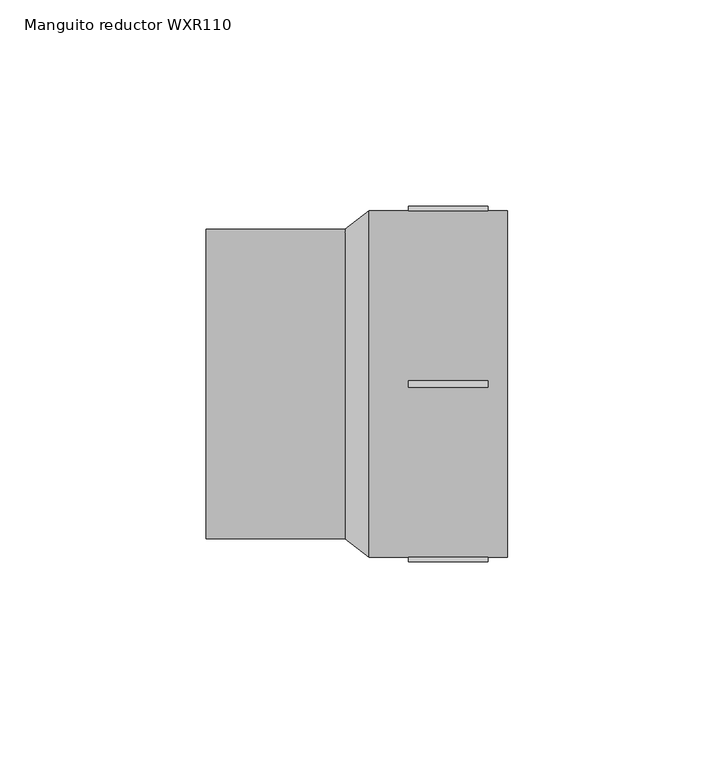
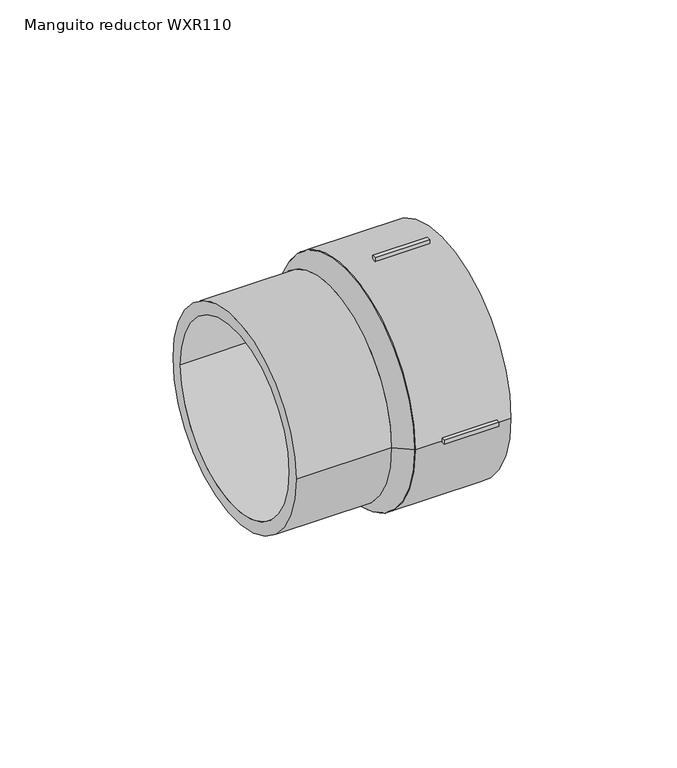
"""IFC4 building model written with IfcOpenShell, lengths in millimetres: pipe fitting geometry, EGB_VASEN_ PPR_Manguito reductor WXR110 : Manguito reductor WXR110."""

from ifc_helpers import new_model, si_unit, point, frame, origin, origin_2d, place, context, project, spatial, polyline, circle_curve, trimmed, segment, composite_curve, outline, extrude, source, transform, mapped, element, save
from ifc_brep_helpers import plane_surface, revolved_surface, advanced_brep


def manguito_reductor_wxr110_f1d7fb8c(model_context):
    return source(origin(), model_context, "Body", "SolidModel", [
        extrude(outline(polyline([(12.5, -0.75), (12.5, 0.75), (31.7, 0.75), (31.7, -0.75), (12.5, -0.75)])), frame((0.0, 0.0, 41.0), z_axis=(0.0, 0.0, 1.0), x_axis=(1.0, 0.0, 0.0)), (0.0, 0.0, 1.0), 2.0),
        extrude(outline(polyline([(12.5, -0.75), (12.5, 0.75), (31.7, 0.75), (31.7, -0.75), (12.5, -0.75)])), frame((0.0, 0.0, -43.0), z_axis=(0.0, 0.0, 1.0), x_axis=(1.0, 0.0, 0.0)), (0.0, 0.0, 1.0), 2.0),
        extrude(outline(polyline([(12.5, 41.0), (12.5, 43.0), (31.7, 43.0), (31.7, 41.0), (12.5, 41.0)])), frame((0.0, 0.0, -0.75), z_axis=(0.0, 0.0, 1.0), x_axis=(1.0, 0.0, 0.0)), (0.0, 0.0, 1.0), 1.5),
        extrude(outline(polyline([(12.5, -43.0), (12.5, -41.0), (31.7, -41.0), (31.7, -43.0), (12.5, -43.0)])), frame((0.0, 0.0, -0.75), z_axis=(0.0, 0.0, 1.0), x_axis=(1.0, 0.0, 0.0)), (0.0, 0.0, 1.0), 1.5),
        extrude(outline(composite_curve([segment(trimmed(circle_curve(origin_2d(), 42.0), [point((-42.0, 0.0))], [point((42.0, 0.0))], False, "CARTESIAN"), True, "CONTINUOUS"), segment(trimmed(circle_curve(origin_2d(), 42.0), [point((42.0, 0.0))], [point((-42.0, 0.0))], False, "CARTESIAN"), True, "CONTINUOUS")], self_intersect=False), holes=[composite_curve([segment(trimmed(circle_curve(origin_2d(), 31.5), [point((-31.5, 0.0))], [point((31.5, 0.0))], True, "CARTESIAN"), True, "CONTINUOUS"), segment(trimmed(circle_curve(origin_2d(), 31.5), [point((31.5, 0.0))], [point((-31.5, 0.0))], True, "CARTESIAN"), True, "CONTINUOUS")], self_intersect=False)]), frame((2.92, 0.0, 0.0), z_axis=(1.0, 0.0, 0.0), x_axis=(0.0, 1.0, 0.0)), (0.0, 0.0, 1.0), 33.58),
        extrude(outline(composite_curve([segment(trimmed(circle_curve(origin_2d(), 37.5), [point((-37.5, 0.0))], [point((37.5, 0.0))], False, "CARTESIAN"), True, "CONTINUOUS"), segment(trimmed(circle_curve(origin_2d(), 37.5), [point((37.5, 0.0))], [point((-37.5, 0.0))], False, "CARTESIAN"), True, "CONTINUOUS")], self_intersect=False), holes=[composite_curve([segment(trimmed(circle_curve(origin_2d(), 33.0), [point((-33.0, 0.0))], [point((33.0, 0.0))], True, "CARTESIAN"), True, "CONTINUOUS"), segment(trimmed(circle_curve(origin_2d(), 33.0), [point((33.0, 0.0))], [point((-33.0, 0.0))], True, "CARTESIAN"), True, "CONTINUOUS")], self_intersect=False)]), frame((-36.5, 0.0, 0.0), z_axis=(1.0, 0.0, 0.0), x_axis=(0.0, 1.0, 0.0)), (0.0, 0.0, 1.0), 33.58),
        advanced_brep(
        [(2.92, -42.0, 0.0), (2.92, 42.0, 0.0), (-2.92, -37.5, 0.0), (-2.92, 37.5, 0.0)],
        [
            (0, 1, circle_curve(frame((2.92, 0.0, 0.0), z_axis=(1.0, 0.0, 0.0), x_axis=(0.0, -1.0, 0.0)), 42.0)),
            (1, 0, circle_curve(frame((2.92, 0.0, 0.0), z_axis=(1.0, 0.0, 0.0), x_axis=(0.0, 1.0, 0.0)), 42.0)),
            (2, 3, circle_curve(frame((-2.92, 0.0, 0.0), z_axis=(-1.0, 0.0, 0.0), x_axis=(0.0, 1.0, 0.0)), 37.5)),
            (3, 2, circle_curve(frame((-2.92, 0.0, 0.0), z_axis=(-1.0, 0.0, 0.0), x_axis=(0.0, -1.0, 0.0)), 37.5)),
            (3, 1),
            (0, 2),
        ],
        [
            plane_surface(frame((2.92, 0.0, 0.0), z_axis=(1.0, 0.0, 0.0), x_axis=(0.0, 0.0, -1.0))),
            plane_surface(frame((-2.92, 0.0, 0.0), z_axis=(-1.0, 0.0, 0.0), x_axis=(0.0, 0.0, -1.0))),
            revolved_surface(polyline([(-2.9200000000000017, 37.50000000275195, 0.0), (2.9200000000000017, 42.0, 0.0)]), (-51.5866667, 0.0, 0.0), (1.0, 0.0, 0.0)),
            revolved_surface(polyline([(-2.9200000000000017, -37.50000000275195, 0.0), (2.9200000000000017, -42.0, 0.0)]), (-51.5866667, 0.0, 0.0), (1.0, 0.0, 0.0)),
        ],
        [
            (0, [[1, 2]]),
            (1, [[3, 4]]),
            (2, [[-4, 5, -1, 6]]),
            (3, [[-3, -6, -2, -5]]),
        ],
    ),
    ])


if __name__ == "__main__":
    model = new_model("IFC4")
    model_context = context("Model", 3, world=origin())
    ifc_project = project(units=[si_unit("LENGTHUNIT", "METRE", prefix="MILLI")], contexts=[model_context])
    site = spatial("IfcSite", under=ifc_project)
    building = spatial("IfcBuilding", under=site)
    placement = place(None, origin())
    manguito_reductor_wxr110_shape = manguito_reductor_wxr110_f1d7fb8c(model_context)
    element("IfcPipeFitting", 1, ObjectType="EGB_VASEN_ PPR_Manguito reductor WXR110 : Manguito reductor WXR110", at=placement, inside=building, context=model_context, shape_type="MappedRepresentation", body=[
        mapped(manguito_reductor_wxr110_shape, transform((0.0, 0.0, 0.0), x_axis=(1.0, 0.0, 0.0), y_axis=(0.0, 1.0, 0.0), z_axis=(0.0, 0.0, 1.0))),
    ])
    save(model, "model.ifc")
